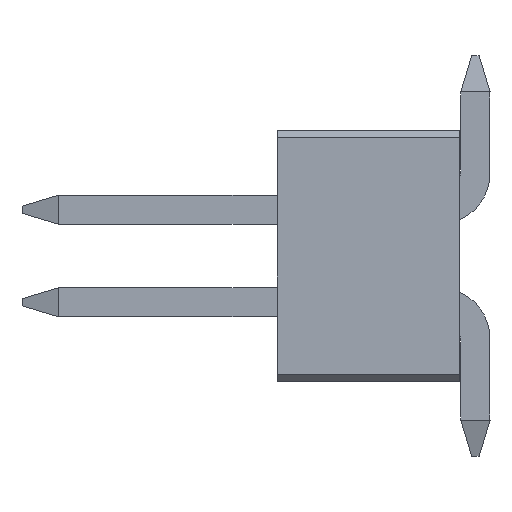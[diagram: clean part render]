
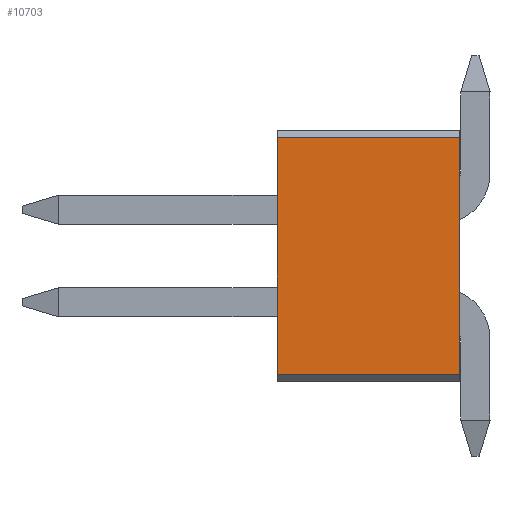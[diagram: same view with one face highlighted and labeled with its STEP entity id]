
A CAD part, left-side view. The second image highlights one B-rep face of the part: STEP entity #10703.
In plain terms, the highlighted planar face has unit normal (-1, 0, 0).
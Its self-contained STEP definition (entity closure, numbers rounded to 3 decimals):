
#177 = EDGE_CURVE ( 'NONE', #19260, #5231, #16180, .T. ) ;
#234 = ORIENTED_EDGE ( 'NONE', *, *, #177, .F. ) ;
#731 = CARTESIAN_POINT ( 'NONE',  ( -7.653, -1.828, -1.62 ) ) ;
#1877 = VECTOR ( 'NONE', #4780, 1000. ) ;
#2332 = DIRECTION ( 'NONE',  ( 0., 0., 1. ) ) ;
#2375 = CARTESIAN_POINT ( 'NONE',  ( -7.653, -1.828, -1.723 ) ) ;
#2439 = CARTESIAN_POINT ( 'NONE',  ( -7.653, -4.328, -1.62 ) ) ;
#3161 = VECTOR ( 'NONE', #7910, 1000. ) ;
#3975 = EDGE_CURVE ( 'NONE', #19536, #7819, #6231, .T. ) ;
#4149 = DIRECTION ( 'NONE',  ( 0., 0., 1. ) ) ;
#4780 = DIRECTION ( 'NONE',  ( 0., -1., 0. ) ) ;
#4796 = VECTOR ( 'NONE', #4149, 1000. ) ;
#5188 = CARTESIAN_POINT ( 'NONE',  ( -7.653, -4.328, 1.62 ) ) ;
#5231 = VERTEX_POINT ( 'NONE', #17866 ) ;
#5399 = LINE ( 'NONE', #2375, #4796 ) ;
#5564 = PLANE ( 'NONE',  #14955 ) ;
#6231 = LINE ( 'NONE', #19098, #1877 ) ;
#6490 = CARTESIAN_POINT ( 'NONE',  ( -7.653, -1.828, 1.62 ) ) ;
#7819 = VERTEX_POINT ( 'NONE', #20153 ) ;
#7910 = DIRECTION ( 'NONE',  ( 0., 0., 1. ) ) ;
#8133 = CARTESIAN_POINT ( 'NONE',  ( -7.653, -4.328, -1.62 ) ) ;
#8603 = FACE_OUTER_BOUND ( 'NONE', #14355, .T. ) ;
#8672 = ORIENTED_EDGE ( 'NONE', *, *, #3975, .T. ) ;
#10703 = ADVANCED_FACE ( 'NONE', ( #8603 ), #5564, .T. ) ;
#11270 = LINE ( 'NONE', #8133, #3161 ) ;
#12541 = ORIENTED_EDGE ( 'NONE', *, *, #15847, .T. ) ;
#12614 = ORIENTED_EDGE ( 'NONE', *, *, #15343, .F. ) ;
#12987 = VECTOR ( 'NONE', #19521, 1000. ) ;
#14355 = EDGE_LOOP ( 'NONE', ( #12541, #234, #12614, #8672 ) ) ;
#14955 = AXIS2_PLACEMENT_3D ( 'NONE', #2439, #16649, #2332 ) ;
#15343 = EDGE_CURVE ( 'NONE', #19536, #19260, #5399, .T. ) ;
#15847 = EDGE_CURVE ( 'NONE', #7819, #5231, #11270, .T. ) ;
#16180 = LINE ( 'NONE', #5188, #12987 ) ;
#16649 = DIRECTION ( 'NONE',  ( -1., 0., 0. ) ) ;
#17866 = CARTESIAN_POINT ( 'NONE',  ( -7.653, -4.328, 1.62 ) ) ;
#19098 = CARTESIAN_POINT ( 'NONE',  ( -7.653, -4.328, -1.62 ) ) ;
#19260 = VERTEX_POINT ( 'NONE', #6490 ) ;
#19521 = DIRECTION ( 'NONE',  ( 0., -1., 0. ) ) ;
#19536 = VERTEX_POINT ( 'NONE', #731 ) ;
#20153 = CARTESIAN_POINT ( 'NONE',  ( -7.653, -4.328, -1.62 ) ) ;
